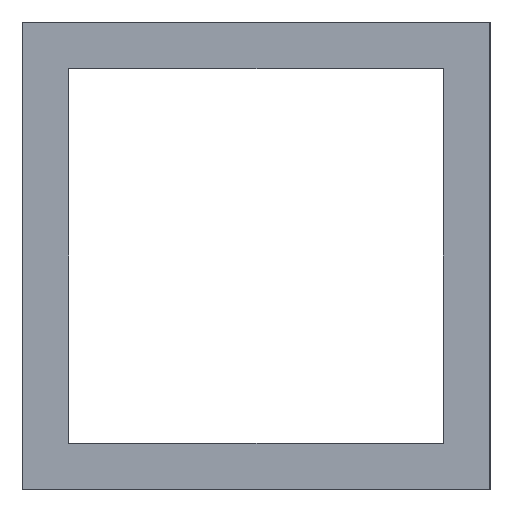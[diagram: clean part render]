
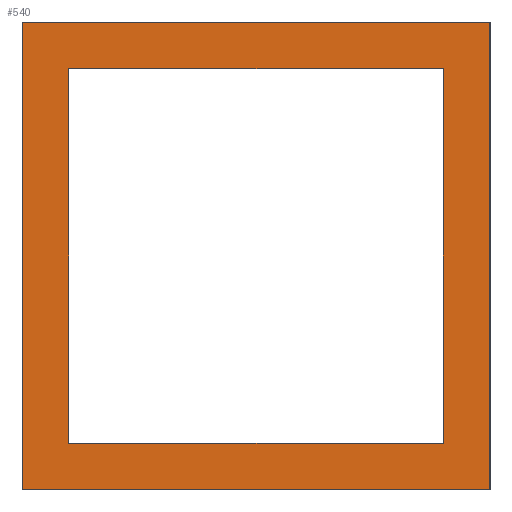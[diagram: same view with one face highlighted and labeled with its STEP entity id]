
A CAD part, left-side view. The second image highlights one B-rep face of the part: STEP entity #540.
In plain terms, the highlighted planar face has unit normal (-1, 0, 0).
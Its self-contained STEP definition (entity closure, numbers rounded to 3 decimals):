
#278=ORIENTED_EDGE('',*,*,#379,.F.);
#279=ORIENTED_EDGE('',*,*,#382,.F.);
#280=ORIENTED_EDGE('',*,*,#384,.F.);
#281=ORIENTED_EDGE('',*,*,#375,.F.);
#282=ORIENTED_EDGE('',*,*,#386,.F.);
#283=ORIENTED_EDGE('',*,*,#387,.F.);
#284=ORIENTED_EDGE('',*,*,#388,.F.);
#285=ORIENTED_EDGE('',*,*,#389,.F.);
#311=VECTOR('',#425,1.);
#315=VECTOR('',#431,1.);
#318=VECTOR('',#436,1.);
#320=VECTOR('',#440,1.);
#322=VECTOR('',#444,1.);
#323=VECTOR('',#445,1.);
#324=VECTOR('',#446,1.);
#325=VECTOR('',#447,1.);
#335=LINE('',#471,#311);
#339=LINE('',#479,#315);
#342=LINE('',#485,#318);
#344=LINE('',#488,#320);
#346=LINE('',#493,#322);
#347=LINE('',#495,#323);
#348=LINE('',#497,#324);
#349=LINE('',#498,#325);
#358=VERTEX_POINT('',#467);
#360=VERTEX_POINT('',#470);
#362=VERTEX_POINT('',#476);
#364=VERTEX_POINT('',#482);
#366=VERTEX_POINT('',#491);
#367=VERTEX_POINT('',#492);
#368=VERTEX_POINT('',#494);
#369=VERTEX_POINT('',#496);
#375=EDGE_CURVE('',#358,#360,#335,.T.);
#379=EDGE_CURVE('',#362,#358,#339,.T.);
#382=EDGE_CURVE('',#364,#362,#342,.T.);
#384=EDGE_CURVE('',#360,#364,#344,.T.);
#386=EDGE_CURVE('',#366,#367,#346,.T.);
#387=EDGE_CURVE('',#368,#366,#347,.T.);
#388=EDGE_CURVE('',#369,#368,#348,.T.);
#389=EDGE_CURVE('',#367,#369,#349,.T.);
#402=EDGE_LOOP('',(#278,#279,#280,#281));
#403=EDGE_LOOP('',(#282,#283,#284,#285));
#414=FACE_BOUND('',#402,.T.);
#415=FACE_BOUND('',#403,.T.);
#425=DIRECTION('',(0.,0.,40.));
#431=DIRECTION('',(0.,40.,0.));
#436=DIRECTION('',(0.,0.,-40.));
#440=DIRECTION('',(0.,-40.,0.));
#442=DIRECTION('',(-1.,0.,0.));
#443=DIRECTION('',(0.,1.,0.));
#444=DIRECTION('',(0.,0.,32.));
#445=DIRECTION('',(0.,-32.,0.));
#446=DIRECTION('',(0.,0.,-32.));
#447=DIRECTION('',(0.,32.,0.));
#467=CARTESIAN_POINT('',(-1130.,20.,-20.));
#470=CARTESIAN_POINT('',(-1130.,20.,20.));
#471=CARTESIAN_POINT('',(-1130.,20.,-20.));
#476=CARTESIAN_POINT('',(-1130.,-20.,-20.));
#479=CARTESIAN_POINT('',(-1130.,-20.,-20.));
#482=CARTESIAN_POINT('',(-1130.,-20.,20.));
#485=CARTESIAN_POINT('',(-1130.,-20.,20.));
#488=CARTESIAN_POINT('',(-1130.,20.,20.));
#490=CARTESIAN_POINT('',(-1130.,0.,0.));
#491=CARTESIAN_POINT('',(-1130.,-16.,-16.));
#492=CARTESIAN_POINT('',(-1130.,-16.,16.));
#493=CARTESIAN_POINT('',(-1130.,-16.,-16.));
#494=CARTESIAN_POINT('',(-1130.,16.,-16.));
#495=CARTESIAN_POINT('',(-1130.,16.,-16.));
#496=CARTESIAN_POINT('',(-1130.,16.,16.));
#497=CARTESIAN_POINT('',(-1130.,16.,16.));
#498=CARTESIAN_POINT('',(-1130.,-16.,16.));
#520=AXIS2_PLACEMENT_3D('',#490,#442,#443);
#530=PLANE('',#520);
#540=ADVANCED_FACE('',(#414,#415),#530,.T.);
